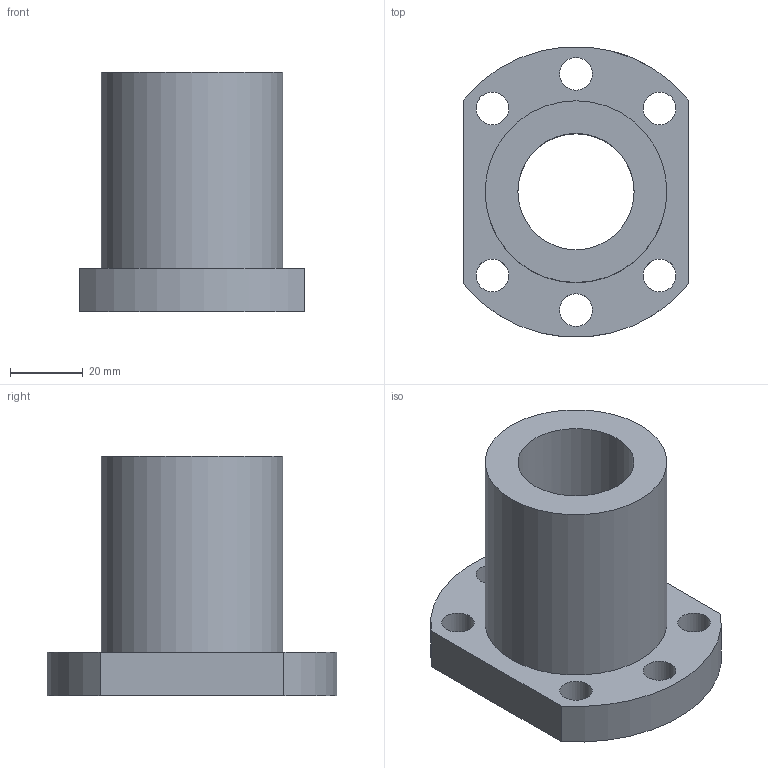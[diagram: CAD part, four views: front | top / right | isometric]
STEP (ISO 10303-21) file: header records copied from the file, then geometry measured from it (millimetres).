
FILE_DESCRIPTION(/* description */ (''),/* implementation_level */ '2;1');
FILE_NAME(/* name */ '32-5T6',/* time_stamp */ '2007-05-17T17:55:36+08:00',/* author */ (''),/* organization */ (''),/* preprocessor_version */ 'ST-DEVELOPER v9',/* originating_system */ 'UGS - NX 4.0',/* authorisation */ '');
FILE_SCHEMA (('CONFIG_CONTROL_DESIGN'));
Length unit declared in the file: millimetre
Products named in the file (1): 32-5T6
Bounding box: 62 x 79.74 x 66 mm (x, y, z)
Volume: 100829.4 mm3; surface area: 26820.4 mm2
Topology: 1 solids, 1 shells, 18 faces, 42 edges, 28 vertices
Faces by surface type: cylinder 12, plane 6
Full cylindrical faces by diameter (mm): 4 x1, 6 x1, 9 x6, 32 x1, 50 x1
Entity records: 706 total; most frequent: CARTESIAN_POINT 193, DIRECTION 90, ORIENTED_EDGE 64, EDGE_LOOP 46, AXIS2_PLACEMENT_3D 41, FACE_BOUND 38, EDGE_CURVE 32, VERTEX_POINT 28
